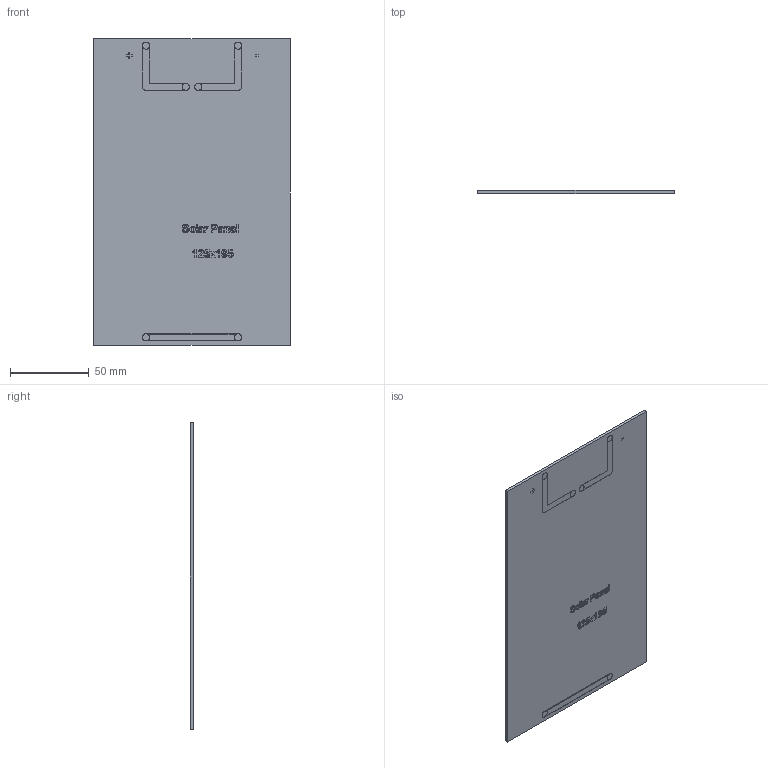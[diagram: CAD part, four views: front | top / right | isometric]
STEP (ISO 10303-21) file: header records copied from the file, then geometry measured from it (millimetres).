
FILE_DESCRIPTION(/* description */ (''),/* implementation_level */ '2;1');
FILE_NAME(/* name */ '9V Solar Cell 125mmx195mm v3.step',/* time_stamp */ '2025-04-28T12:47:31-05:00',/* author */ (''),/* organization */ (''),/* preprocessor_version */ 'ST-DEVELOPER v20.1',/* originating_system */ 'Autodesk Translation Framework v14.4.0.0',/* authorisation */ '');
FILE_SCHEMA (('AUTOMOTIVE_DESIGN { 1 0 10303 214 3 1 1 }'));
Length unit declared in the file: millimetre
Products named in the file (1): 9V Solar Cell 125mmx195mm
Bounding box: 125 x 2.12 x 195 mm (x, y, z)
Volume: 48835 mm3; surface area: 50104 mm2
Topology: 1 solids, 1 shells, 989 faces, 3749 edges, 2808 vertices
Faces by surface type: plane 753, bspline 225, cylinder 11
Full cylindrical faces by diameter (mm): 4.5 x6
Entity records: 42783 total; most frequent: CARTESIAN_POINT 11372, ORIENTED_EDGE 7498, DIRECTION 4870, EDGE_CURVE 3749, LINE 3258, VECTOR 3258, VERTEX_POINT 2808, EDGE_LOOP 1035
